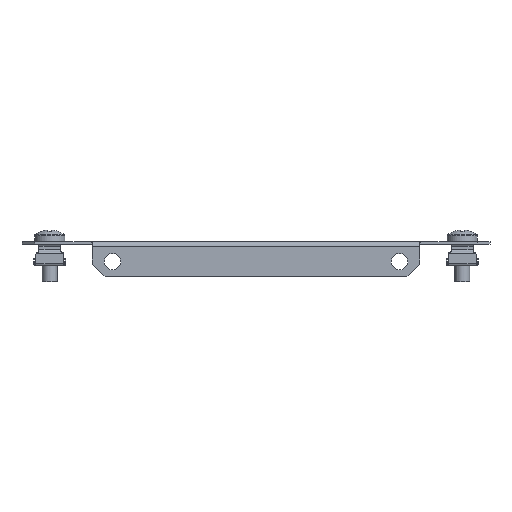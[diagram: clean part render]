
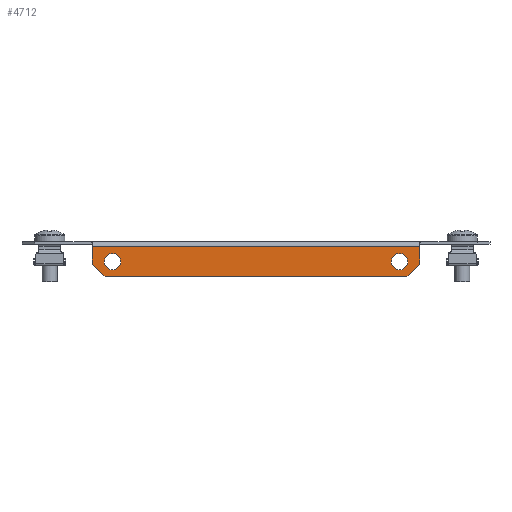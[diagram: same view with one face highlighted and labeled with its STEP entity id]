
A CAD part, front view. The second image highlights one B-rep face of the part: STEP entity #4712.
In plain terms, the highlighted planar face has unit normal (0, -1, 0).
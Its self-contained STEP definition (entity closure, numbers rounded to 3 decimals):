
#106 = EDGE_CURVE ( 'NONE', #6144, #4744, #4509, .T. ) ;
#148 = VERTEX_POINT ( 'NONE', #2965 ) ;
#175 = CARTESIAN_POINT ( 'NONE',  ( -65., -49.5, -2. ) ) ;
#192 = LINE ( 'NONE', #2930, #6790 ) ;
#201 = CARTESIAN_POINT ( 'NONE',  ( 65., -49.5, -2. ) ) ;
#231 = CARTESIAN_POINT ( 'NONE',  ( -60., -49.5, -14. ) ) ;
#636 = VECTOR ( 'NONE', #3477, 1000. ) ;
#670 = DIRECTION ( 'NONE',  ( 0., -1., 0. ) ) ;
#687 = VERTEX_POINT ( 'NONE', #175 ) ;
#781 = DIRECTION ( 'NONE',  ( 0., 0., 1. ) ) ;
#784 = AXIS2_PLACEMENT_3D ( 'NONE', #1488, #6047, #781 ) ;
#891 = VECTOR ( 'NONE', #992, 1000. ) ;
#992 = DIRECTION ( 'NONE',  ( 0.707, 0., 0.707 ) ) ;
#1066 = DIRECTION ( 'NONE',  ( 0.707, 0., -0.707 ) ) ;
#1076 = EDGE_LOOP ( 'NONE', ( #2448, #2356, #5083, #3995, #4155, #3820 ) ) ;
#1354 = DIRECTION ( 'NONE',  ( 0., 0., 1. ) ) ;
#1488 = CARTESIAN_POINT ( 'NONE',  ( 0., -49.5, 0. ) ) ;
#1612 = ORIENTED_EDGE ( 'NONE', *, *, #4530, .F. ) ;
#1822 = VERTEX_POINT ( 'NONE', #5300 ) ;
#1979 = CARTESIAN_POINT ( 'NONE',  ( -65., -49.5, 0. ) ) ;
#2159 = EDGE_CURVE ( 'NONE', #3110, #687, #2451, .T. ) ;
#2356 = ORIENTED_EDGE ( 'NONE', *, *, #3567, .T. ) ;
#2400 = CARTESIAN_POINT ( 'NONE',  ( -37., -49.5, -37. ) ) ;
#2448 = ORIENTED_EDGE ( 'NONE', *, *, #4580, .T. ) ;
#2451 = LINE ( 'NONE', #3508, #636 ) ;
#2625 = LINE ( 'NONE', #1979, #7045 ) ;
#2894 = CARTESIAN_POINT ( 'NONE',  ( 65., -49.5, -9. ) ) ;
#2930 = CARTESIAN_POINT ( 'NONE',  ( 0., -49.5, -14. ) ) ;
#2965 = CARTESIAN_POINT ( 'NONE',  ( -57., -49.5, -4.75 ) ) ;
#3110 = VERTEX_POINT ( 'NONE', #201 ) ;
#3194 = AXIS2_PLACEMENT_3D ( 'NONE', #4138, #670, #4745 ) ;
#3468 = DIRECTION ( 'NONE',  ( 1., 0., 0. ) ) ;
#3477 = DIRECTION ( 'NONE',  ( -1., 0., 0. ) ) ;
#3508 = CARTESIAN_POINT ( 'NONE',  ( 0., -49.5, -2. ) ) ;
#3567 = EDGE_CURVE ( 'NONE', #6236, #4501, #6198, .T. ) ;
#3587 = CARTESIAN_POINT ( 'NONE',  ( 65., -49.5, 0. ) ) ;
#3709 = EDGE_LOOP ( 'NONE', ( #1612 ) ) ;
#3820 = ORIENTED_EDGE ( 'NONE', *, *, #106, .T. ) ;
#3995 = ORIENTED_EDGE ( 'NONE', *, *, #2159, .T. ) ;
#4107 = VECTOR ( 'NONE', #1066, 1000. ) ;
#4138 = CARTESIAN_POINT ( 'NONE',  ( 57., -49.5, -8. ) ) ;
#4155 = ORIENTED_EDGE ( 'NONE', *, *, #4671, .T. ) ;
#4501 = VERTEX_POINT ( 'NONE', #2894 ) ;
#4507 = CARTESIAN_POINT ( 'NONE',  ( -57., -49.5, -8. ) ) ;
#4509 = LINE ( 'NONE', #2400, #4107 ) ;
#4525 = CIRCLE ( 'NONE', #3194, 3.25 ) ;
#4530 = EDGE_CURVE ( 'NONE', #1822, #1822, #4525, .T. ) ;
#4580 = EDGE_CURVE ( 'NONE', #4744, #6236, #192, .T. ) ;
#4671 = EDGE_CURVE ( 'NONE', #687, #6144, #2625, .T. ) ;
#4712 = ADVANCED_FACE ( 'NONE', ( #4933, #4857, #6086 ), #5419, .T. ) ;
#4744 = VERTEX_POINT ( 'NONE', #231 ) ;
#4745 = DIRECTION ( 'NONE',  ( 0., 0., 1. ) ) ;
#4857 = FACE_BOUND ( 'NONE', #5468, .T. ) ;
#4933 = FACE_BOUND ( 'NONE', #3709, .T. ) ;
#5083 = ORIENTED_EDGE ( 'NONE', *, *, #5895, .T. ) ;
#5201 = EDGE_CURVE ( 'NONE', #148, #148, #7163, .T. ) ;
#5300 = CARTESIAN_POINT ( 'NONE',  ( 57., -49.5, -4.75 ) ) ;
#5419 = PLANE ( 'NONE',  #784 ) ;
#5468 = EDGE_LOOP ( 'NONE', ( #6110 ) ) ;
#5895 = EDGE_CURVE ( 'NONE', #4501, #3110, #7151, .T. ) ;
#6047 = DIRECTION ( 'NONE',  ( 0., -1., 0. ) ) ;
#6082 = CARTESIAN_POINT ( 'NONE',  ( 60., -49.5, -14. ) ) ;
#6085 = CARTESIAN_POINT ( 'NONE',  ( 37., -49.5, -37. ) ) ;
#6086 = FACE_OUTER_BOUND ( 'NONE', #1076, .T. ) ;
#6110 = ORIENTED_EDGE ( 'NONE', *, *, #5201, .T. ) ;
#6144 = VERTEX_POINT ( 'NONE', #7416 ) ;
#6198 = LINE ( 'NONE', #6085, #891 ) ;
#6236 = VERTEX_POINT ( 'NONE', #6082 ) ;
#6682 = VECTOR ( 'NONE', #1354, 1000. ) ;
#6785 = DIRECTION ( 'NONE',  ( 0., 1., 0. ) ) ;
#6790 = VECTOR ( 'NONE', #3468, 1000. ) ;
#6826 = DIRECTION ( 'NONE',  ( 0., 0., 1. ) ) ;
#7045 = VECTOR ( 'NONE', #7211, 1000. ) ;
#7151 = LINE ( 'NONE', #3587, #6682 ) ;
#7163 = CIRCLE ( 'NONE', #7407, 3.25 ) ;
#7211 = DIRECTION ( 'NONE',  ( 0., 0., -1. ) ) ;
#7407 = AXIS2_PLACEMENT_3D ( 'NONE', #4507, #6785, #6826 ) ;
#7416 = CARTESIAN_POINT ( 'NONE',  ( -65., -49.5, -9. ) ) ;
